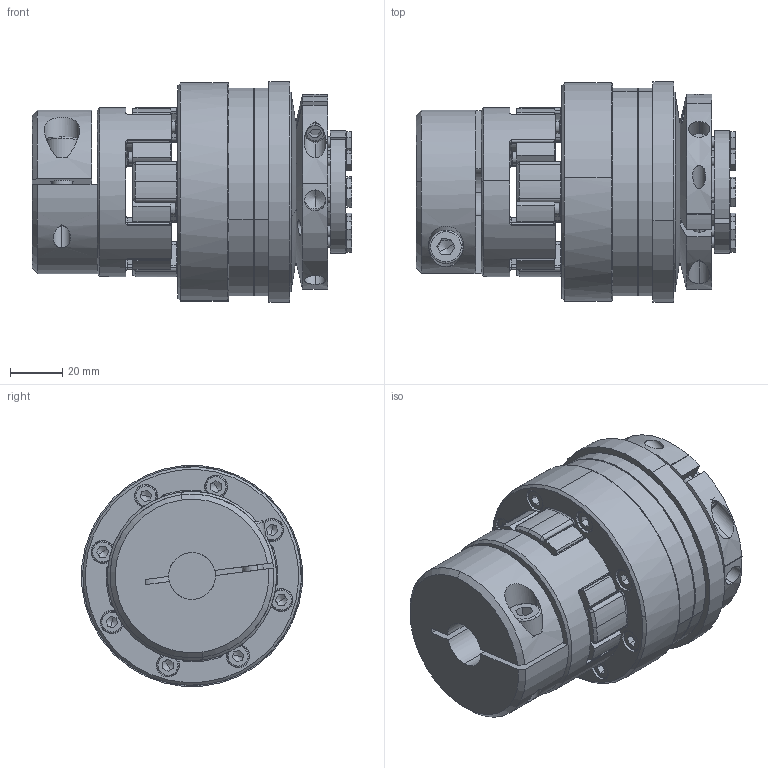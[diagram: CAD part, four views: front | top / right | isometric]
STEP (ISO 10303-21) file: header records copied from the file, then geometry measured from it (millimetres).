
FILE_DESCRIPTION(('STEP AP214'),'1');
FILE_NAME('1_80_dss_sg_n_d15-e_t1___gas_sg_d18-b__92_sh-a.stp','2024-04-16T08:05:35',('TraceParts'),('TraceParts S.A.'),'Spatial InterOp 3D',' ',' ');
FILE_SCHEMA(('AUTOMOTIVE_DESIGN { 1 0 10303 214 1 1 1 1 }'));
Length unit declared in the file: millimetre
Products named in the file (1): 1_80_dss_sg_n_d15-e_t1___gas_sg_d18-b__92_sh-a
Bounding box: 122.9 x 84.69 x 84.69 mm (x, y, z)
Volume: 396889.2 mm3; surface area: 116298.1 mm2
Topology: 13 solids, 13 shells, 1130 faces, 3078 edges, 2021 vertices
Faces by surface type: cylinder 436, plane 283, cone 221, torus 190
Entity records: 48700 total; most frequent: CARTESIAN_POINT 10114, DIRECTION 6676, ORIENTED_EDGE 6096, EDGE_CURVE 3048, AXIS2_PLACEMENT_3D 2853, VERTEX_POINT 2019, CIRCLE 1719, EDGE_LOOP 1299
